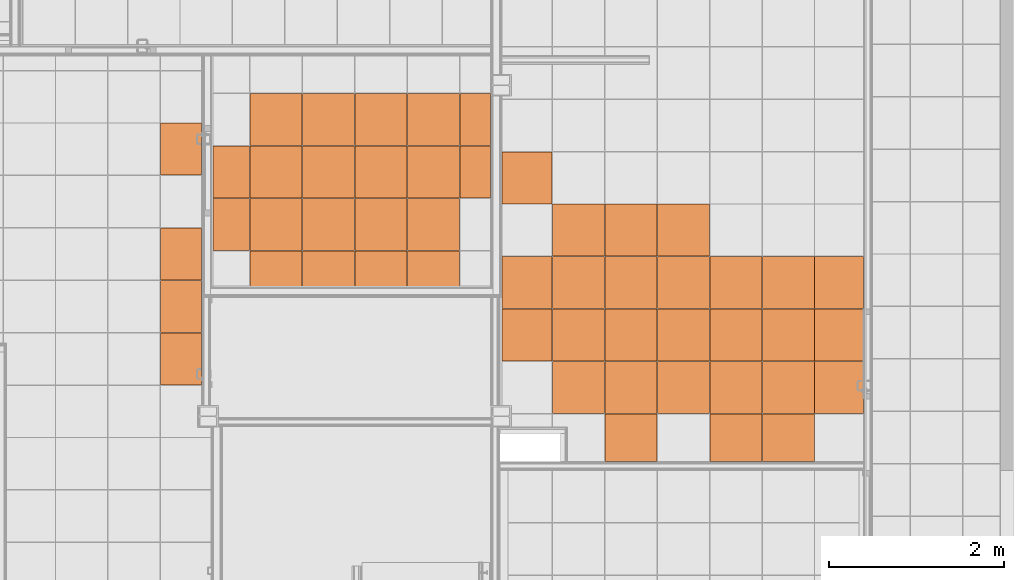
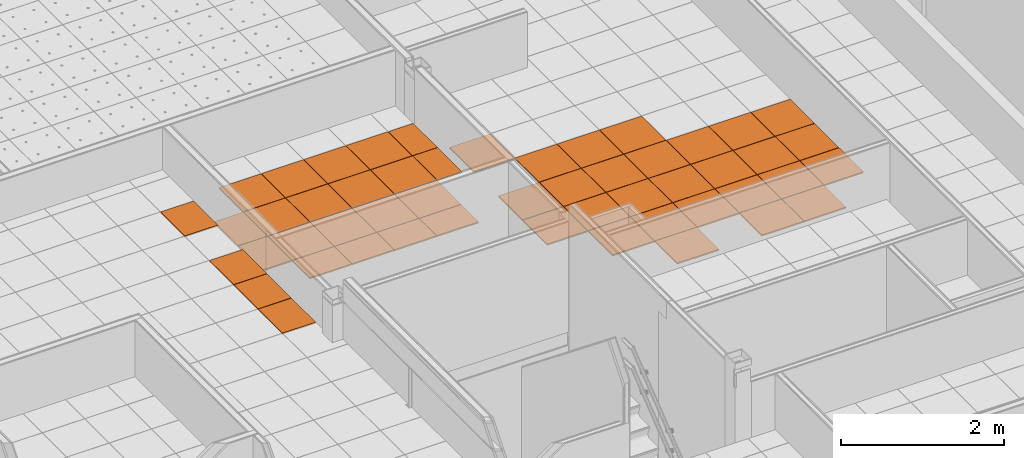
# One storey, part 287 of 338: 51 proxies, 3 elements without a shape of their own.
"""IFC2X3 building model written with IfcOpenShell, lengths in millimetres."""

from ifc_helpers import new_model, entity, si_unit, converted_unit, derived_unit, money_unit, direction, frame, origin_with_axes, place, context, subcontext, project, spatial, faceted_brep, source, transform, mapped, material, type_object, type_shapes, element, aggregate, save


model = new_model("IFC2X3")

# Units and contexts
model_context = context("Model", 3, precision=0.01, world=origin_with_axes(), true_north=direction((0.0, 1.0)))
plan_context = context("Plan", 3, precision=0.01, world=origin_with_axes(), true_north=direction((0.0, 1.0)))
body_context = subcontext(model_context, "Body", "Model", "MODEL_VIEW")
ifc_project = project(units=[si_unit("LENGTHUNIT", "METRE", prefix="MILLI"), si_unit("AREAUNIT", "SQUARE_METRE"), si_unit("VOLUMEUNIT", "CUBIC_METRE"), converted_unit("PLANEANGLEUNIT", "DEGREE", entity("IfcPlaneAngleMeasure", 0.0174532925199), si_unit("PLANEANGLEUNIT", "RADIAN"), dimensions=[0, 0, 0, 0, 0, 0, 0]), money_unit("EUR"), converted_unit("TIMEUNIT", "Year", entity("IfcTimeMeasure", 31556926.0), si_unit("TIMEUNIT", "SECOND"), dimensions=[0, 0, 1, 0, 0, 0, 0]), si_unit("MASSUNIT", "GRAM", prefix="KILO"), si_unit("THERMODYNAMICTEMPERATUREUNIT", "DEGREE_CELSIUS"), si_unit("LUMINOUSINTENSITYUNIT", "LUMEN"), si_unit("ENERGYUNIT", "JOULE", prefix="MEGA"), derived_unit("THERMALCONDUCTANCEUNIT", [(si_unit("POWERUNIT", "WATT"), 1), (si_unit("LENGTHUNIT", "METRE"), -1), (si_unit("THERMODYNAMICTEMPERATUREUNIT", "KELVIN"), -1)]), derived_unit("SPECIFICHEATCAPACITYUNIT", [(si_unit("ENERGYUNIT", "JOULE"), 1), (si_unit("MASSUNIT", "GRAM", prefix="KILO"), -1), (si_unit("THERMODYNAMICTEMPERATUREUNIT", "KELVIN"), -1)]), derived_unit("MASSDENSITYUNIT", [(si_unit("MASSUNIT", "GRAM", prefix="KILO"), 1), (si_unit("VOLUMEUNIT", "CUBIC_METRE"), -1)])], contexts=[model_context, plan_context])

# Site, building, storey
site_placement = place(None, origin_with_axes())
site = spatial("IfcSite", under=ifc_project, at=site_placement, Name="Fortuinstraat Woensdrecht", CompositionType="ELEMENT")
building_placement = place(site_placement, origin_with_axes())
building = spatial("IfcBuilding", under=site, at=building_placement, Name="IKC Fortuna", CompositionType="ELEMENT")
storey_placement = place(building_placement, origin_with_axes())
storey = spatial("IfcBuildingStorey", under=building, at=storey_placement, Name="00 begane grond", CompositionType="ELEMENT", Elevation=0.0)

# Covering, proxies
covering_type = type_object("IfcCoveringType", Name="Curtain Wall Type", PredefinedType="CEILING")
covering_1_placement = place(storey_placement, frame((25881.8218229, 26800.2480691, 2810.0), z_axis=(0.0, 0.0, 1.0), x_axis=(1.0, 0.0, 0.0)))
covering_1 = element("IfcCovering", 1, at=covering_1_placement, inside=storey, type_object=covering_type, Name="45_Plafondafwerking_P02", PredefinedType="CEILING")
ifc_material = material(Name="Gipsplaat")
building_element_proxy_type_1 = type_object("IfcBuildingElementProxyType", Name="Distinct Panel 600 x 600 x 20", PredefinedType="NOTDEFINED")
shared_shape_1 = source(origin_with_axes(), body_context, "Body", "Brep", [
    faceted_brep([(2.49999999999, 2.5, -10.0), (597.5, 2.49999999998, -10.0), (597.5, 2.49999999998, 10.0), (2.49999999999, 2.5, 10.0), (2.50000000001, 597.5, -10.0), (597.5, 597.5, -10.0), (597.5, 597.5, 10.0), (2.50000000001, 597.5, 10.0)], [[[0, 1, 2, 3]], [[0, 4, 5, 1]], [[1, 5, 6, 2]], [[3, 2, 6, 7]], [[4, 0, 3, 7]], [[5, 4, 7, 6]]]),
])
proxy_1_placement = place(covering_1_placement, frame((512.511068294, -600.0, 0.0), z_axis=(0.0, 0.0, 1.0), x_axis=(1.0, 0.0, 0.0)))
proxy_1 = element("IfcBuildingElementProxy", 2, at=proxy_1_placement, type_object=building_element_proxy_type_1, material=ifc_material, Name="__Panel-D", context=body_context, shape_type="MappedRepresentation", body=[
    mapped(shared_shape_1, transform((300.0, 300.0, 0.0), x_axis=(-1.0, 0.0, 0.0), y_axis=(0.0, -1.0, 0.0), z_axis=(0.0, 0.0, 1.0))),
])
proxy_2_placement = place(covering_1_placement, frame((512.511068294, 600.0, 0.0), z_axis=(0.0, 0.0, 1.0), x_axis=(1.0, 0.0, 0.0)))
proxy_2 = element("IfcBuildingElementProxy", 3, at=proxy_2_placement, type_object=building_element_proxy_type_1, material=ifc_material, Name="__Panel-D", context=body_context, shape_type="MappedRepresentation", body=[
    mapped(shared_shape_1, transform((300.0, 300.0, 0.0), x_axis=(-1.0, 0.0, 0.0), y_axis=(0.0, -1.0, 0.0), z_axis=(0.0, 0.0, 1.0))),
])
proxy_3_placement = place(covering_1_placement, frame((1112.51106829, 600.0, 0.0), z_axis=(0.0, 0.0, 1.0), x_axis=(1.0, 0.0, 0.0)))
proxy_3 = element("IfcBuildingElementProxy", 4, at=proxy_3_placement, type_object=building_element_proxy_type_1, material=ifc_material, Name="__Panel-D", context=body_context, shape_type="MappedRepresentation", body=[
    mapped(shared_shape_1, transform((300.0, 300.0, 0.0), x_axis=(-1.0, 0.0, 0.0), y_axis=(0.0, -1.0, 0.0), z_axis=(0.0, 0.0, 1.0))),
])
proxy_4_placement = place(covering_1_placement, frame((1712.51106829, 0.0, 0.0), z_axis=(0.0, 0.0, 1.0), x_axis=(1.0, 0.0, 0.0)))
proxy_4 = element("IfcBuildingElementProxy", 5, at=proxy_4_placement, type_object=building_element_proxy_type_1, material=ifc_material, Name="__Panel-D", context=body_context, shape_type="MappedRepresentation", body=[
    mapped(shared_shape_1, transform((300.0, 300.0, 0.0), x_axis=(-1.0, 0.0, 0.0), y_axis=(0.0, -1.0, 0.0), z_axis=(0.0, 0.0, 1.0))),
])
proxy_5_placement = place(covering_1_placement, frame((1112.51106829, 0.0, 0.0), z_axis=(0.0, 0.0, 1.0), x_axis=(1.0, 0.0, 0.0)))
proxy_5 = element("IfcBuildingElementProxy", 6, at=proxy_5_placement, type_object=building_element_proxy_type_1, material=ifc_material, Name="__Panel-D", context=body_context, shape_type="MappedRepresentation", body=[
    mapped(shared_shape_1, transform((300.0, 300.0, 0.0), x_axis=(-1.0, 0.0, 0.0), y_axis=(0.0, -1.0, 0.0), z_axis=(0.0, 0.0, 1.0))),
])
proxy_6_placement = place(covering_1_placement, frame((2312.51106829, 600.0, 0.0), z_axis=(0.0, 0.0, 1.0), x_axis=(1.0, 0.0, 0.0)))
proxy_6 = element("IfcBuildingElementProxy", 7, at=proxy_6_placement, type_object=building_element_proxy_type_1, material=ifc_material, Name="__Panel-D", context=body_context, shape_type="MappedRepresentation", body=[
    mapped(shared_shape_1, transform((300.0, 300.0, 0.0), x_axis=(-1.0, 0.0, 0.0), y_axis=(0.0, -1.0, 0.0), z_axis=(0.0, 0.0, 1.0))),
])
proxy_7_placement = place(covering_1_placement, frame((1712.51106829, -600.0, 0.0), z_axis=(0.0, 0.0, 1.0), x_axis=(1.0, 0.0, 0.0)))
proxy_7 = element("IfcBuildingElementProxy", 8, at=proxy_7_placement, type_object=building_element_proxy_type_1, material=ifc_material, Name="__Panel-D", context=body_context, shape_type="MappedRepresentation", body=[
    mapped(shared_shape_1, transform((300.0, 300.0, 0.0), x_axis=(-1.0, 0.0, 0.0), y_axis=(0.0, -1.0, 0.0), z_axis=(0.0, 0.0, 1.0))),
])
proxy_8_placement = place(covering_1_placement, frame((1712.51106829, 600.0, 0.0), z_axis=(0.0, 0.0, 1.0), x_axis=(1.0, 0.0, 0.0)))
proxy_8 = element("IfcBuildingElementProxy", 9, at=proxy_8_placement, type_object=building_element_proxy_type_1, material=ifc_material, Name="__Panel-D", context=body_context, shape_type="MappedRepresentation", body=[
    mapped(shared_shape_1, transform((300.0, 300.0, 0.0), x_axis=(-1.0, 0.0, 0.0), y_axis=(0.0, -1.0, 0.0), z_axis=(0.0, 0.0, 1.0))),
])
shared_shape_2 = source(origin_with_axes(), body_context, "Body", "Brep", [
    faceted_brep([(2.5000069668, 2.4999963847, -10.0), (597.499995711, 2.50000275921, -10.0), (597.499995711, 2.50000275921, 10.0), (2.5000069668, 2.4999963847, 10.0), (2.50000214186, 597.499967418, -10.0), (597.499990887, 597.499973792, -10.0), (597.499990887, 597.499973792, 10.0), (2.50000214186, 597.499967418, 10.0)], [[[0, 1, 2, 3]], [[0, 4, 5, 1]], [[1, 5, 6, 2]], [[3, 2, 6, 7]], [[4, 0, 3, 7]], [[5, 4, 7, 6]]]),
])
proxy_9_placement = place(covering_1_placement, frame((2312.51106829, -600.0, 0.0), z_axis=(0.0, 0.0, 1.0), x_axis=(1.0, 0.0, 0.0)))
proxy_9 = element("IfcBuildingElementProxy", 10, at=proxy_9_placement, type_object=building_element_proxy_type_1, material=ifc_material, Name="__Panel-D", context=body_context, shape_type="MappedRepresentation", body=[
    mapped(shared_shape_2, transform((300.0, 300.0, 0.0), x_axis=(-1.0, 0.0, 0.0), y_axis=(0.0, -1.0, 0.0), z_axis=(0.0, 0.0, 1.0))),
])
proxy_10_placement = place(covering_1_placement, frame((2312.51106829, 0.0, 0.0), z_axis=(0.0, 0.0, 1.0), x_axis=(1.0, 0.0, 0.0)))
proxy_10 = element("IfcBuildingElementProxy", 11, at=proxy_10_placement, type_object=building_element_proxy_type_1, material=ifc_material, Name="__Panel-D", context=body_context, shape_type="MappedRepresentation", body=[
    mapped(shared_shape_2, transform((300.0, 300.0, 0.0), x_axis=(-1.0, 0.0, 0.0), y_axis=(0.0, -1.0, 0.0), z_axis=(0.0, 0.0, 1.0))),
])
proxy_11_placement = place(covering_1_placement, frame((1112.51106829, -600.0, 0.0), z_axis=(0.0, 0.0, 1.0), x_axis=(1.0, 0.0, 0.0)))
proxy_11 = element("IfcBuildingElementProxy", 12, at=proxy_11_placement, type_object=building_element_proxy_type_1, material=ifc_material, Name="__Panel-D", context=body_context, shape_type="MappedRepresentation", body=[
    mapped(shared_shape_2, transform((300.0, 300.0, 0.0), x_axis=(-1.0, 0.0, 0.0), y_axis=(0.0, -1.0, 0.0), z_axis=(0.0, 0.0, 1.0))),
])
shared_shape_3 = source(origin_with_axes(), body_context, "Body", "Brep", [
    faceted_brep([(2.50000188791, 2.50000518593, -10.0), (597.499994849, 2.50000192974, -10.0), (597.499994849, 2.50000192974, 10.0), (2.50000188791, 2.50000518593, 10.0), (2.50000514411, 597.499998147, -10.0), (597.499998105, 597.499994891, -10.0), (597.499998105, 597.499994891, 10.0), (2.50000514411, 597.499998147, 10.0)], [[[0, 1, 2, 3]], [[0, 4, 5, 1]], [[1, 5, 6, 2]], [[3, 2, 6, 7]], [[4, 0, 3, 7]], [[5, 4, 7, 6]]]),
])
proxy_12_placement = place(covering_1_placement, frame((512.511068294, 0.0, 0.0), z_axis=(0.0, 0.0, 1.0), x_axis=(1.0, 0.0, 0.0)))
proxy_12 = element("IfcBuildingElementProxy", 13, at=proxy_12_placement, type_object=building_element_proxy_type_1, material=ifc_material, Name="__Panel-D", context=body_context, shape_type="MappedRepresentation", body=[
    mapped(shared_shape_3, transform((300.0, 300.0, 0.0), x_axis=(-1.0, 0.0, 0.0), y_axis=(0.0, -1.0, 0.0), z_axis=(0.0, 0.0, 1.0))),
])

covering_2_placement = place(storey_placement, frame((29266.9722516, 29133.4974296, 2810.0), z_axis=(0.0, 0.0, 1.0), x_axis=(1.0, 0.0, 0.0)))
covering_2 = element("IfcCovering", 14, at=covering_2_placement, inside=storey, type_object=covering_type, Name="45_Plafondafwerking_P02 v", PredefinedType="CEILING")
shared_shape_4 = source(origin_with_axes(), body_context, "Body", "Brep", [
    faceted_brep([(-2.49999999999, 2.5, -10.0), (-2.49999999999, 2.5, 10.0), (-597.5, 2.49999999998, 10.0), (-597.5, 2.49999999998, -10.0), (-2.50000000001, 597.5, -10.0), (-2.50000000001, 597.5, 10.0), (-597.5, 597.5, 10.0), (-597.5, 597.5, -10.0)], [[[0, 1, 2, 3]], [[4, 5, 1, 0]], [[1, 5, 6, 2]], [[3, 2, 6, 7]], [[0, 3, 7, 4]], [[7, 6, 5, 4]]]),
])
type_shapes(building_element_proxy_type_1, [shared_shape_1, shared_shape_2, shared_shape_3, shared_shape_4])
proxy_13_placement = place(covering_2_placement, frame((2990.03728037, -4800.0, 1.07913677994e-10), z_axis=(0.0, 0.0, 1.0), x_axis=(1.0, 0.0, 0.0)))
proxy_13 = element("IfcBuildingElementProxy", 15, at=proxy_13_placement, type_object=building_element_proxy_type_1, material=ifc_material, Name="__Panel-D", context=body_context, shape_type="MappedRepresentation", body=[
    mapped(shared_shape_4, transform((-300.0, 300.0, 0.0), x_axis=(-1.0, 0.0, 0.0), y_axis=(0.0, -1.0, 0.0), z_axis=(0.0, 0.0, 1.0))),
])
proxy_14_placement = place(covering_2_placement, frame((2990.03728037, -4200.0, 1.07913677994e-10), z_axis=(0.0, 0.0, 1.0), x_axis=(1.0, 0.0, 0.0)))
proxy_14 = element("IfcBuildingElementProxy", 16, at=proxy_14_placement, type_object=building_element_proxy_type_1, material=ifc_material, Name="__Panel-D", context=body_context, shape_type="MappedRepresentation", body=[
    mapped(shared_shape_4, transform((-300.0, 300.0, 0.0), x_axis=(-1.0, 0.0, 0.0), y_axis=(0.0, -1.0, 0.0), z_axis=(0.0, 0.0, 1.0))),
])
proxy_15_placement = place(covering_2_placement, frame((2990.03728037, -3600.0, 1.07913677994e-10), z_axis=(0.0, 0.0, 1.0), x_axis=(1.0, 0.0, 0.0)))
proxy_15 = element("IfcBuildingElementProxy", 17, at=proxy_15_placement, type_object=building_element_proxy_type_1, material=ifc_material, Name="__Panel-D", context=body_context, shape_type="MappedRepresentation", body=[
    mapped(shared_shape_4, transform((-300.0, 300.0, 0.0), x_axis=(-1.0, 0.0, 0.0), y_axis=(0.0, -1.0, 0.0), z_axis=(0.0, 0.0, 1.0))),
])
proxy_16_placement = place(covering_2_placement, frame((590.037280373, -3000.0, 0.0), z_axis=(0.0, 0.0, 1.0), x_axis=(1.0, 0.0, 0.0)))
proxy_16 = element("IfcBuildingElementProxy", 18, at=proxy_16_placement, type_object=building_element_proxy_type_1, material=ifc_material, Name="__Panel-D", context=body_context, shape_type="MappedRepresentation", body=[
    mapped(shared_shape_4, transform((-300.0, 300.0, 0.0), x_axis=(-1.0, 0.0, 0.0), y_axis=(0.0, -1.0, 0.0), z_axis=(0.0, 0.0, 1.0))),
])
proxy_17_placement = place(covering_2_placement, frame((590.037280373, -3600.0, 0.0), z_axis=(0.0, 0.0, 1.0), x_axis=(1.0, 0.0, 0.0)))
proxy_17 = element("IfcBuildingElementProxy", 19, at=proxy_17_placement, type_object=building_element_proxy_type_1, material=ifc_material, Name="__Panel-D", context=body_context, shape_type="MappedRepresentation", body=[
    mapped(shared_shape_4, transform((-300.0, 300.0, 0.0), x_axis=(-1.0, 0.0, 0.0), y_axis=(0.0, -1.0, 0.0), z_axis=(0.0, 0.0, 1.0))),
])
proxy_18_placement = place(covering_2_placement, frame((590.037280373, -4200.0, 0.0), z_axis=(0.0, 0.0, 1.0), x_axis=(1.0, 0.0, 0.0)))
proxy_18 = element("IfcBuildingElementProxy", 20, at=proxy_18_placement, type_object=building_element_proxy_type_1, material=ifc_material, Name="__Panel-D", context=body_context, shape_type="MappedRepresentation", body=[
    mapped(shared_shape_4, transform((-300.0, 300.0, 0.0), x_axis=(-1.0, 0.0, 0.0), y_axis=(0.0, -1.0, 0.0), z_axis=(0.0, 0.0, 1.0))),
])
proxy_19_placement = place(covering_2_placement, frame((590.037280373, -4800.0, 0.0), z_axis=(0.0, 0.0, 1.0), x_axis=(1.0, 0.0, 0.0)))
proxy_19 = element("IfcBuildingElementProxy", 21, at=proxy_19_placement, type_object=building_element_proxy_type_1, material=ifc_material, Name="__Panel-D", context=body_context, shape_type="MappedRepresentation", body=[
    mapped(shared_shape_4, transform((-300.0, 300.0, 0.0), x_axis=(-1.0, 0.0, 0.0), y_axis=(0.0, -1.0, 0.0), z_axis=(0.0, 0.0, 1.0))),
])
proxy_20_placement = place(covering_2_placement, frame((1190.03728037, -3000.0, 0.0), z_axis=(0.0, 0.0, 1.0), x_axis=(1.0, 0.0, 0.0)))
proxy_20 = element("IfcBuildingElementProxy", 22, at=proxy_20_placement, type_object=building_element_proxy_type_1, material=ifc_material, Name="__Panel-D", context=body_context, shape_type="MappedRepresentation", body=[
    mapped(shared_shape_4, transform((-300.0, 300.0, 0.0), x_axis=(-1.0, 0.0, 0.0), y_axis=(0.0, -1.0, 0.0), z_axis=(0.0, 0.0, 1.0))),
])
proxy_21_placement = place(covering_2_placement, frame((1190.03728037, -3600.0, 0.0), z_axis=(0.0, 0.0, 1.0), x_axis=(1.0, 0.0, 0.0)))
proxy_21 = element("IfcBuildingElementProxy", 23, at=proxy_21_placement, type_object=building_element_proxy_type_1, material=ifc_material, Name="__Panel-D", context=body_context, shape_type="MappedRepresentation", body=[
    mapped(shared_shape_4, transform((-300.0, 300.0, 0.0), x_axis=(-1.0, 0.0, 0.0), y_axis=(0.0, -1.0, 0.0), z_axis=(0.0, 0.0, 1.0))),
])
proxy_22_placement = place(covering_2_placement, frame((1190.03728037, -4200.0, 0.0), z_axis=(0.0, 0.0, 1.0), x_axis=(1.0, 0.0, 0.0)))
proxy_22 = element("IfcBuildingElementProxy", 24, at=proxy_22_placement, type_object=building_element_proxy_type_1, material=ifc_material, Name="__Panel-D", context=body_context, shape_type="MappedRepresentation", body=[
    mapped(shared_shape_4, transform((-300.0, 300.0, 0.0), x_axis=(-1.0, 0.0, 0.0), y_axis=(0.0, -1.0, 0.0), z_axis=(0.0, 0.0, 1.0))),
])
proxy_23_placement = place(covering_2_placement, frame((1190.03728037, -4800.0, 0.0), z_axis=(0.0, 0.0, 1.0), x_axis=(1.0, 0.0, 0.0)))
proxy_23 = element("IfcBuildingElementProxy", 25, at=proxy_23_placement, type_object=building_element_proxy_type_1, material=ifc_material, Name="__Panel-D", context=body_context, shape_type="MappedRepresentation", body=[
    mapped(shared_shape_4, transform((-300.0, 300.0, 0.0), x_axis=(-1.0, 0.0, 0.0), y_axis=(0.0, -1.0, 0.0), z_axis=(0.0, 0.0, 1.0))),
])
proxy_24_placement = place(covering_2_placement, frame((1790.03728037, -3000.0, 0.0), z_axis=(0.0, 0.0, 1.0), x_axis=(1.0, 0.0, 0.0)))
proxy_24 = element("IfcBuildingElementProxy", 26, at=proxy_24_placement, type_object=building_element_proxy_type_1, material=ifc_material, Name="__Panel-D", context=body_context, shape_type="MappedRepresentation", body=[
    mapped(shared_shape_4, transform((-300.0, 300.0, 0.0), x_axis=(-1.0, 0.0, 0.0), y_axis=(0.0, -1.0, 0.0), z_axis=(0.0, 0.0, 1.0))),
])
proxy_25_placement = place(covering_2_placement, frame((1790.03728037, -3600.0, 0.0), z_axis=(0.0, 0.0, 1.0), x_axis=(1.0, 0.0, 0.0)))
proxy_25 = element("IfcBuildingElementProxy", 27, at=proxy_25_placement, type_object=building_element_proxy_type_1, material=ifc_material, Name="__Panel-D", context=body_context, shape_type="MappedRepresentation", body=[
    mapped(shared_shape_4, transform((-300.0, 300.0, 0.0), x_axis=(-1.0, 0.0, 0.0), y_axis=(0.0, -1.0, 0.0), z_axis=(0.0, 0.0, 1.0))),
])
proxy_26_placement = place(covering_2_placement, frame((1790.03728037, -4200.0, 0.0), z_axis=(0.0, 0.0, 1.0), x_axis=(1.0, 0.0, 0.0)))
proxy_26 = element("IfcBuildingElementProxy", 28, at=proxy_26_placement, type_object=building_element_proxy_type_1, material=ifc_material, Name="__Panel-D", context=body_context, shape_type="MappedRepresentation", body=[
    mapped(shared_shape_4, transform((-300.0, 300.0, 0.0), x_axis=(-1.0, 0.0, 0.0), y_axis=(0.0, -1.0, 0.0), z_axis=(0.0, 0.0, 1.0))),
])
proxy_27_placement = place(covering_2_placement, frame((1790.03728037, -4800.0, 0.0), z_axis=(0.0, 0.0, 1.0), x_axis=(1.0, 0.0, 0.0)))
proxy_27 = element("IfcBuildingElementProxy", 29, at=proxy_27_placement, type_object=building_element_proxy_type_1, material=ifc_material, Name="__Panel-D", context=body_context, shape_type="MappedRepresentation", body=[
    mapped(shared_shape_4, transform((-300.0, 300.0, 0.0), x_axis=(-1.0, 0.0, 0.0), y_axis=(0.0, -1.0, 0.0), z_axis=(0.0, 0.0, 1.0))),
])
proxy_28_placement = place(covering_2_placement, frame((2390.03728037, -3600.0, 0.0), z_axis=(0.0, 0.0, 1.0), x_axis=(1.0, 0.0, 0.0)))
proxy_28 = element("IfcBuildingElementProxy", 30, at=proxy_28_placement, type_object=building_element_proxy_type_1, material=ifc_material, Name="__Panel-D", context=body_context, shape_type="MappedRepresentation", body=[
    mapped(shared_shape_4, transform((-300.0, 300.0, 0.0), x_axis=(-1.0, 0.0, 0.0), y_axis=(0.0, -1.0, 0.0), z_axis=(0.0, 0.0, 1.0))),
])
proxy_29_placement = place(covering_2_placement, frame((2390.03728037, -4200.0, 0.0), z_axis=(0.0, 0.0, 1.0), x_axis=(1.0, 0.0, 0.0)))
proxy_29 = element("IfcBuildingElementProxy", 31, at=proxy_29_placement, type_object=building_element_proxy_type_1, material=ifc_material, Name="__Panel-D", context=body_context, shape_type="MappedRepresentation", body=[
    mapped(shared_shape_4, transform((-300.0, 300.0, 0.0), x_axis=(-1.0, 0.0, 0.0), y_axis=(0.0, -1.0, 0.0), z_axis=(0.0, 0.0, 1.0))),
])
proxy_30_placement = place(covering_2_placement, frame((2390.03728037, -4800.0, 0.0), z_axis=(0.0, 0.0, 1.0), x_axis=(1.0, 0.0, 0.0)))
proxy_30 = element("IfcBuildingElementProxy", 32, at=proxy_30_placement, type_object=building_element_proxy_type_1, material=ifc_material, Name="__Panel-D", context=body_context, shape_type="MappedRepresentation", body=[
    mapped(shared_shape_4, transform((-300.0, 300.0, 0.0), x_axis=(-1.0, 0.0, 0.0), y_axis=(0.0, -1.0, 0.0), z_axis=(0.0, 0.0, 1.0))),
])

covering_3_placement = place(storey_placement, frame((21169.4446171, 27661.0834994, 3010.0), z_axis=(0.0, 0.0, 1.0), x_axis=(1.0, 0.0, 0.0)))
covering_3 = element("IfcCovering", 33, at=covering_3_placement, inside=storey, type_object=covering_type, Name="45_Plafondafwerking_P04", PredefinedType="CEILING")
building_element_proxy_type_2 = type_object("IfcBuildingElementProxyType", Name="Distinct Panel 475 x 600 x 20", PredefinedType="NOTDEFINED")
shared_shape_5 = source(origin_with_axes(), body_context, "Body", "Brep", [
    faceted_brep([(-2.49999743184, 2.5, -10.0), (-2.49999743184, 2.5, 10.0), (-472.366146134, 2.49999999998, 10.0), (-472.366146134, 2.49999999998, -10.0), (-2.49999743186, 597.5, -10.0), (-2.49999743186, 597.5, 10.0), (-472.366146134, 597.5, 10.0), (-472.366146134, 597.5, -10.0)], [[[0, 1, 2, 3]], [[4, 5, 1, 0]], [[1, 5, 6, 2]], [[3, 2, 6, 7]], [[0, 3, 7, 4]], [[7, 6, 5, 4]]]),
])
type_shapes(building_element_proxy_type_2, [shared_shape_5])
proxy_31_placement = place(covering_3_placement, frame((4137.43307307, -3000.0, 1.54098955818e-10), z_axis=(0.0, 0.0, 1.0), x_axis=(1.0, 0.0, 0.0)))
proxy_31 = element("IfcBuildingElementProxy", 34, at=proxy_31_placement, type_object=building_element_proxy_type_2, material=ifc_material, Name="__Panel-D", context=body_context, shape_type="MappedRepresentation", body=[
    mapped(shared_shape_5, transform((-237.433073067, 300.0, 0.0), x_axis=(-1.0, 0.0, 0.0), y_axis=(0.0, -1.0, 0.0), z_axis=(0.0, 0.0, 1.0))),
])
proxy_32_placement = place(covering_3_placement, frame((4137.43307307, -2400.0, 1.54098955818e-10), z_axis=(0.0, 0.0, 1.0), x_axis=(1.0, 0.0, 0.0)))
proxy_32 = element("IfcBuildingElementProxy", 35, at=proxy_32_placement, type_object=building_element_proxy_type_2, material=ifc_material, Name="__Panel-D", context=body_context, shape_type="MappedRepresentation", body=[
    mapped(shared_shape_5, transform((-237.433073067, 300.0, 0.0), x_axis=(-1.0, 0.0, 0.0), y_axis=(0.0, -1.0, 0.0), z_axis=(0.0, 0.0, 1.0))),
])
proxy_33_placement = place(covering_3_placement, frame((4137.43307307, -600.0, 1.54098955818e-10), z_axis=(0.0, 0.0, 1.0), x_axis=(1.0, 0.0, 0.0)))
proxy_33 = element("IfcBuildingElementProxy", 36, at=proxy_33_placement, type_object=building_element_proxy_type_2, material=ifc_material, Name="__Panel-D", context=body_context, shape_type="MappedRepresentation", body=[
    mapped(shared_shape_5, transform((-237.433073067, 300.0, 0.0), x_axis=(-1.0, 0.0, 0.0), y_axis=(0.0, -1.0, 0.0), z_axis=(0.0, 0.0, 1.0))),
])
proxy_34_placement = place(covering_3_placement, frame((4137.43307307, -1800.0, 1.54098955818e-10), z_axis=(0.0, 0.0, 1.0), x_axis=(1.0, 0.0, 0.0)))
proxy_34 = element("IfcBuildingElementProxy", 37, at=proxy_34_placement, type_object=building_element_proxy_type_2, material=ifc_material, Name="__Panel-D", context=body_context, shape_type="MappedRepresentation", body=[
    mapped(shared_shape_5, transform((-237.433073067, 300.0, 0.0), x_axis=(-1.0, 0.0, 0.0), y_axis=(0.0, -1.0, 0.0), z_axis=(0.0, 0.0, 1.0))),
])
aggregate(covering_3, [proxy_31, proxy_32, proxy_33, proxy_34])

# Proxy
building_element_proxy_type_3 = type_object("IfcBuildingElementProxyType", Name="Distinct Panel 580 x 600 x 20", PredefinedType="NOTDEFINED")
shared_shape_6 = source(origin_with_axes(), body_context, "Body", "Brep", [
    faceted_brep([(-22.4254255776, 2.5, -10.0), (-22.4254255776, 2.5, 10.0), (-597.5, 2.49999999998, 10.0), (-597.5, 2.49999999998, -10.0), (-22.4254523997, 597.5, -10.0), (-22.4254523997, 597.5, 10.0), (-597.5, 597.5, 10.0), (-597.5, 597.5, -10.0)], [[[0, 1, 2, 3]], [[4, 5, 1, 0]], [[1, 5, 6, 2]], [[3, 2, 6, 7]], [[0, 3, 7, 4]], [[7, 6, 5, 4]]]),
])
proxy_35_placement = place(covering_2_placement, frame((5.87752424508e-06, -2400.0, 0.0), z_axis=(0.0, 0.0, 1.0), x_axis=(1.0, 0.0, 0.0)))
proxy_35 = element("IfcBuildingElementProxy", 38, at=proxy_35_placement, type_object=building_element_proxy_type_3, material=ifc_material, Name="__Panel-D", context=body_context, shape_type="MappedRepresentation", body=[
    mapped(shared_shape_6, transform((-309.962725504, 300.0, 0.0), x_axis=(-1.0, 0.0, 0.0), y_axis=(0.0, -1.0, 0.0), z_axis=(0.0, 0.0, 1.0))),
])

proxy_36_placement = place(covering_2_placement, frame((5.87748161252e-06, -4200.0, 0.0), z_axis=(0.0, 0.0, 1.0), x_axis=(1.0, 0.0, 0.0)))
proxy_36 = element("IfcBuildingElementProxy", 39, at=proxy_36_placement, type_object=building_element_proxy_type_3, material=ifc_material, Name="__Panel-D", context=body_context, shape_type="MappedRepresentation", body=[
    mapped(shared_shape_6, transform((-309.962725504, 300.0, 0.0), x_axis=(-1.0, 0.0, 0.0), y_axis=(0.0, -1.0, 0.0), z_axis=(0.0, 0.0, 1.0))),
])

building_element_proxy_type_4 = type_object("IfcBuildingElementProxyType", Name="Distinct Panel 563 x 600 x 20", PredefinedType="NOTDEFINED")
shared_shape_7 = source(origin_with_axes(), body_context, "Body", "Brep", [
    faceted_brep([(-2.4999963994, 2.5, -10.0), (-2.4999963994, 2.5, 10.0), (-560.154491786, 2.49999999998, 10.0), (-560.154491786, 2.49999999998, -10.0), (-2.49999639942, 597.5, -10.0), (-2.49999639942, 597.5, 10.0), (-560.154491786, 597.5, 10.0), (-560.154491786, 597.5, -10.0)], [[[0, 1, 2, 3]], [[4, 5, 1, 0]], [[1, 5, 6, 2]], [[3, 2, 6, 7]], [[0, 3, 7, 4]], [[7, 6, 5, 4]]]),
])
type_shapes(building_element_proxy_type_4, [shared_shape_7])
proxy_37_placement = place(covering_2_placement, frame((3571.36452627, -4200.0, 1.27009514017e-10), z_axis=(0.0, 0.0, 1.0), x_axis=(1.0, 0.0, 0.0)))
proxy_37 = element("IfcBuildingElementProxy", 40, at=proxy_37_placement, type_object=building_element_proxy_type_4, material=ifc_material, Name="__Panel-D", context=body_context, shape_type="MappedRepresentation", body=[
    mapped(shared_shape_7, transform((-281.327245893, 300.0, 0.0), x_axis=(-1.0, 0.0, 0.0), y_axis=(0.0, -1.0, 0.0), z_axis=(0.0, 0.0, 1.0))),
])

proxy_38_placement = place(covering_2_placement, frame((3571.36454448, -4800.0, 1.27009514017e-10), z_axis=(0.0, 0.0, 1.0), x_axis=(1.0, 0.0, 0.0)))
proxy_38 = element("IfcBuildingElementProxy", 41, at=proxy_38_placement, type_object=building_element_proxy_type_4, material=ifc_material, Name="__Panel-D", context=body_context, shape_type="MappedRepresentation", body=[
    mapped(shared_shape_7, transform((-281.327264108, 300.0, 0.0), x_axis=(-1.0, 0.0, 0.0), y_axis=(0.0, -1.0, 0.0), z_axis=(0.0, 0.0, 1.0))),
])

proxy_39_placement = place(covering_2_placement, frame((3571.36452627, -3600.0, 1.27009514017e-10), z_axis=(0.0, 0.0, 1.0), x_axis=(1.0, 0.0, 0.0)))
proxy_39 = element("IfcBuildingElementProxy", 42, at=proxy_39_placement, type_object=building_element_proxy_type_4, material=ifc_material, Name="__Panel-D", context=body_context, shape_type="MappedRepresentation", body=[
    mapped(shared_shape_7, transform((-281.327245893, 300.0, 0.0), x_axis=(-1.0, 0.0, 0.0), y_axis=(0.0, -1.0, 0.0), z_axis=(0.0, 0.0, 1.0))),
])

shared_shape_8 = source(origin_with_axes(), body_context, "Body", "Brep", [
    faceted_brep([(-22.4254523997, 2.5, -10.0), (-22.4254523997, 2.5, 10.0), (-597.5, 2.49999999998, 10.0), (-597.5, 2.49999999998, -10.0), (-22.4254523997, 597.5, -10.0), (-22.4254523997, 597.5, 10.0), (-597.5, 597.5, 10.0), (-597.5, 597.5, -10.0)], [[[0, 1, 2, 3]], [[4, 5, 1, 0]], [[1, 5, 6, 2]], [[3, 2, 6, 7]], [[0, 3, 7, 4]], [[7, 6, 5, 4]]]),
])
type_shapes(building_element_proxy_type_3, [shared_shape_6, shared_shape_8])
proxy_40_placement = place(covering_2_placement, frame((5.87749582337e-06, -3600.0, 0.0), z_axis=(0.0, 0.0, 1.0), x_axis=(1.0, 0.0, 0.0)))
proxy_40 = element("IfcBuildingElementProxy", 43, at=proxy_40_placement, type_object=building_element_proxy_type_3, material=ifc_material, Name="__Panel-D", context=body_context, shape_type="MappedRepresentation", body=[
    mapped(shared_shape_8, transform((-309.962725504, 300.0, 0.0), x_axis=(-1.0, 0.0, 0.0), y_axis=(0.0, -1.0, 0.0), z_axis=(0.0, 0.0, 1.0))),
])

building_element_proxy_type_5 = type_object("IfcBuildingElementProxyType", Name="Distinct Panel 600 x 549 x 20", PredefinedType="NOTDEFINED")
shared_shape_9 = source(origin_with_axes(), body_context, "Body", "Brep", [
    faceted_brep([(-2.49999999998, 2.50000277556, -10.0), (-2.49999999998, 2.50000277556, 10.0), (-597.5, 2.50000277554, 10.0), (-597.5, 2.50000277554, -10.0), (-2.5, 546.483855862, -10.0), (-2.5, 546.483855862, 10.0), (-597.5, 546.483855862, 10.0), (-597.5, 546.483855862, -10.0)], [[[0, 1, 2, 3]], [[4, 5, 1, 0]], [[1, 5, 6, 2]], [[3, 2, 6, 7]], [[0, 3, 7, 4]], [[7, 6, 5, 4]]]),
])
type_shapes(building_element_proxy_type_5, [shared_shape_9])
proxy_41_placement = place(covering_2_placement, frame((2390.03728037, -5374.49192793, 0.0), z_axis=(0.0, 0.0, 1.0), x_axis=(1.0, 0.0, 0.0)))
proxy_41 = element("IfcBuildingElementProxy", 44, at=proxy_41_placement, type_object=building_element_proxy_type_5, material=ifc_material, Name="__Panel-D", context=body_context, shape_type="MappedRepresentation", body=[
    mapped(shared_shape_9, transform((-300.0, 274.491927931, 0.0), x_axis=(-1.0, 0.0, 0.0), y_axis=(0.0, -1.0, 0.0), z_axis=(0.0, 0.0, 1.0))),
])

proxy_42_placement = place(covering_2_placement, frame((2990.03728037, -5374.49192793, 1.07913677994e-10), z_axis=(0.0, 0.0, 1.0), x_axis=(1.0, 0.0, 0.0)))
proxy_42 = element("IfcBuildingElementProxy", 45, at=proxy_42_placement, type_object=building_element_proxy_type_5, material=ifc_material, Name="__Panel-D", context=body_context, shape_type="MappedRepresentation", body=[
    mapped(shared_shape_9, transform((-300.0, 274.491927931, 0.0), x_axis=(-1.0, 0.0, 0.0), y_axis=(0.0, -1.0, 0.0), z_axis=(0.0, 0.0, 1.0))),
])

proxy_43_placement = place(covering_2_placement, frame((1190.03728037, -5374.49192793, 0.0), z_axis=(0.0, 0.0, 1.0), x_axis=(1.0, 0.0, 0.0)))
proxy_43 = element("IfcBuildingElementProxy", 46, at=proxy_43_placement, type_object=building_element_proxy_type_5, material=ifc_material, Name="__Panel-D", context=body_context, shape_type="MappedRepresentation", body=[
    mapped(shared_shape_9, transform((-300.0, 274.491927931, 0.0), x_axis=(-1.0, 0.0, 0.0), y_axis=(0.0, -1.0, 0.0), z_axis=(0.0, 0.0, 1.0))),
])

aggregate(covering_2, [proxy_41, proxy_42, proxy_37, proxy_40, proxy_35, proxy_38, proxy_39, proxy_13, proxy_14, proxy_15, proxy_16, proxy_17, proxy_18, proxy_19, proxy_43, proxy_20, proxy_21, proxy_22, proxy_23, proxy_24, proxy_25, proxy_26, proxy_27, proxy_36, proxy_28, proxy_29, proxy_30])

building_element_proxy_type_6 = type_object("IfcBuildingElementProxyType", Name="Distinct Panel 425 x 600 x 20", PredefinedType="NOTDEFINED")
shared_shape_10 = source(origin_with_axes(), body_context, "Body", "Brep", [
    faceted_brep([(2.49999940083, 2.5, -10.0), (422.522136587, 2.49999999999, -10.0), (422.522136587, 2.49999999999, 10.0), (2.49999940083, 2.5, 10.0), (2.49999940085, 597.5, -10.0), (422.522136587, 597.5, -10.0), (422.522136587, 597.5, 10.0), (2.49999940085, 597.5, 10.0)], [[[0, 1, 2, 3]], [[0, 4, 5, 1]], [[1, 5, 6, 2]], [[3, 2, 6, 7]], [[4, 0, 3, 7]], [[5, 4, 7, 6]]]),
])
type_shapes(building_element_proxy_type_6, [shared_shape_10])
proxy_44_placement = place(covering_1_placement, origin_with_axes())
proxy_44 = element("IfcBuildingElementProxy", 47, at=proxy_44_placement, type_object=building_element_proxy_type_6, material=ifc_material, Name="__Panel-D", context=body_context, shape_type="MappedRepresentation", body=[
    mapped(shared_shape_10, transform((212.511068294, 300.0, 0.0), x_axis=(-1.0, 0.0, 0.0), y_axis=(0.0, -1.0, 0.0), z_axis=(0.0, 0.0, 1.0))),
])

proxy_45_placement = place(covering_1_placement, frame((0.0, -600.0, 0.0), z_axis=(0.0, 0.0, 1.0), x_axis=(1.0, 0.0, 0.0)))
proxy_45 = element("IfcBuildingElementProxy", 48, at=proxy_45_placement, type_object=building_element_proxy_type_6, material=ifc_material, Name="__Panel-D", context=body_context, shape_type="MappedRepresentation", body=[
    mapped(shared_shape_10, transform((212.511068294, 300.0, 0.0), x_axis=(-1.0, 0.0, 0.0), y_axis=(0.0, -1.0, 0.0), z_axis=(0.0, 0.0, 1.0))),
])

building_element_proxy_type_7 = type_object("IfcBuildingElementProxyType", Name="Distinct Panel 358 x 600 x 20", PredefinedType="NOTDEFINED")
shared_shape_11 = source(origin_with_axes(), body_context, "Body", "Brep", [
    faceted_brep([(244.897915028, 2.5, -10.0), (597.5, 2.49999999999, -10.0), (597.5, 2.49999999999, 10.0), (244.897915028, 2.5, 10.0), (244.897915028, 597.5, -10.0), (597.5, 597.5, -10.0), (597.5, 597.5, 10.0), (244.897915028, 597.5, 10.0)], [[[0, 1, 2, 3]], [[0, 4, 5, 1]], [[1, 5, 6, 2]], [[3, 2, 6, 7]], [[4, 0, 3, 7]], [[5, 4, 7, 6]]]),
])
type_shapes(building_element_proxy_type_7, [shared_shape_11])
proxy_46_placement = place(covering_1_placement, frame((2791.31211229, 600.0, 0.0), z_axis=(0.0, 0.0, 1.0), x_axis=(1.0, 0.0, 0.0)))
proxy_46 = element("IfcBuildingElementProxy", 49, at=proxy_46_placement, type_object=building_element_proxy_type_7, material=ifc_material, Name="__Panel-D", context=body_context, shape_type="MappedRepresentation", body=[
    mapped(shared_shape_11, transform((421.198956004, 300.0, 0.0), x_axis=(-1.0, 0.0, 0.0), y_axis=(0.0, -1.0, 0.0), z_axis=(0.0, 0.0, 1.0))),
])

proxy_47_placement = place(covering_1_placement, frame((2791.31211229, 0.0, 0.0), z_axis=(0.0, 0.0, 1.0), x_axis=(1.0, 0.0, 0.0)))
proxy_47 = element("IfcBuildingElementProxy", 50, at=proxy_47_placement, type_object=building_element_proxy_type_7, material=ifc_material, Name="__Panel-D", context=body_context, shape_type="MappedRepresentation", body=[
    mapped(shared_shape_11, transform((421.198956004, 300.0, 0.0), x_axis=(-1.0, 0.0, 0.0), y_axis=(0.0, -1.0, 0.0), z_axis=(0.0, 0.0, 1.0))),
])

building_element_proxy_type_8 = type_object("IfcBuildingElementProxyType", Name="Distinct Panel 600 x 432 x 20", PredefinedType="NOTDEFINED")
shared_shape_12 = source(origin_with_axes(), body_context, "Body", "Brep", [
    faceted_brep([(2.5, 2.49999997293, -10.0), (597.5, 2.49999997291, -10.0), (597.5, 2.49999997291, 10.0), (2.5, 2.49999997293, 10.0), (2.50000000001, 429.654352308, -10.0), (597.5, 429.654352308, -10.0), (597.5, 429.654352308, 10.0), (2.50000000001, 429.654352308, 10.0)], [[[0, 1, 2, 3]], [[0, 4, 5, 1]], [[1, 5, 6, 2]], [[3, 2, 6, 7]], [[4, 0, 3, 7]], [[5, 4, 7, 6]]]),
])
type_shapes(building_element_proxy_type_8, [shared_shape_12])
proxy_48_placement = place(covering_1_placement, frame((512.511068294, -1116.07717615, 0.0), z_axis=(0.0, 0.0, 1.0), x_axis=(1.0, 0.0, 0.0)))
proxy_48 = element("IfcBuildingElementProxy", 51, at=proxy_48_placement, type_object=building_element_proxy_type_8, material=ifc_material, Name="__Panel-D", context=body_context, shape_type="MappedRepresentation", body=[
    mapped(shared_shape_12, transform((300.0, 216.077176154, 0.0), x_axis=(-1.0, 0.0, 0.0), y_axis=(0.0, -1.0, 0.0), z_axis=(0.0, 0.0, 1.0))),
])

proxy_49_placement = place(covering_1_placement, frame((1712.51106829, -1116.07717615, 0.0), z_axis=(0.0, 0.0, 1.0), x_axis=(1.0, 0.0, 0.0)))
proxy_49 = element("IfcBuildingElementProxy", 52, at=proxy_49_placement, type_object=building_element_proxy_type_8, material=ifc_material, Name="__Panel-D", context=body_context, shape_type="MappedRepresentation", body=[
    mapped(shared_shape_12, transform((300.0, 216.077176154, 0.0), x_axis=(-1.0, 0.0, 0.0), y_axis=(0.0, -1.0, 0.0), z_axis=(0.0, 0.0, 1.0))),
])

proxy_50_placement = place(covering_1_placement, frame((1112.51106829, -1116.07717615, 0.0), z_axis=(0.0, 0.0, 1.0), x_axis=(1.0, 0.0, 0.0)))
proxy_50 = element("IfcBuildingElementProxy", 53, at=proxy_50_placement, type_object=building_element_proxy_type_8, material=ifc_material, Name="__Panel-D", context=body_context, shape_type="MappedRepresentation", body=[
    mapped(shared_shape_12, transform((300.0, 216.077176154, 0.0), x_axis=(-1.0, 0.0, 0.0), y_axis=(0.0, -1.0, 0.0), z_axis=(0.0, 0.0, 1.0))),
])

proxy_51_placement = place(covering_1_placement, frame((2312.51106829, -1116.07718201, 0.0), z_axis=(0.0, 0.0, 1.0), x_axis=(1.0, 0.0, 0.0)))
proxy_51 = element("IfcBuildingElementProxy", 54, at=proxy_51_placement, type_object=building_element_proxy_type_8, material=ifc_material, Name="__Panel-D", context=body_context, shape_type="MappedRepresentation", body=[
    mapped(shared_shape_12, transform((300.0, 216.077182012, 0.0), x_axis=(-1.0, 0.0, 0.0), y_axis=(0.0, -1.0, 0.0), z_axis=(0.0, 0.0, 1.0))),
])

aggregate(covering_1, [proxy_44, proxy_1, proxy_46, proxy_2, proxy_3, proxy_4, proxy_5, proxy_6, proxy_7, proxy_48, proxy_8, proxy_9, proxy_45, proxy_10, proxy_11, proxy_12, proxy_49, proxy_50, proxy_51, proxy_47])

save(model, "model.ifc")
